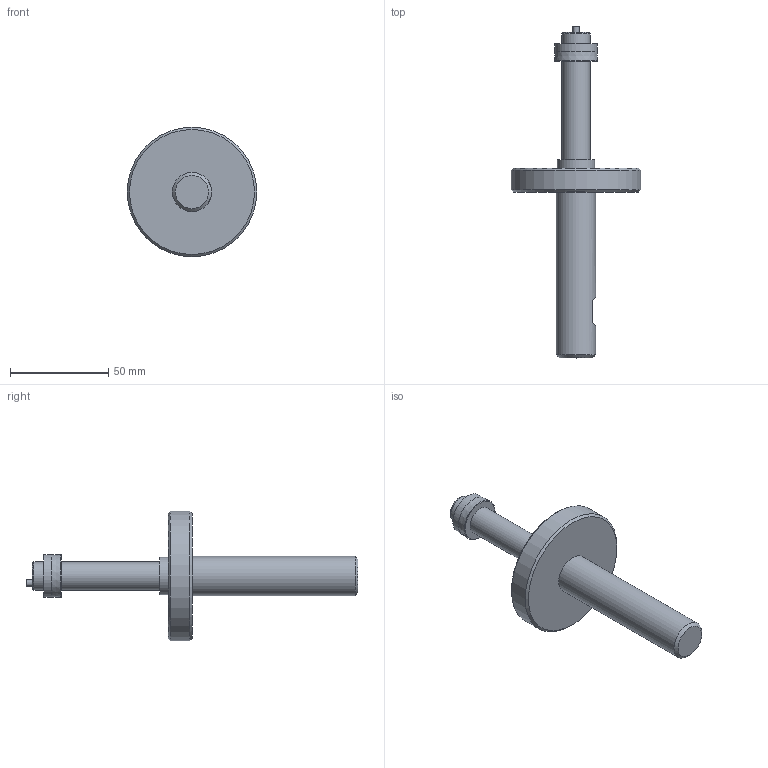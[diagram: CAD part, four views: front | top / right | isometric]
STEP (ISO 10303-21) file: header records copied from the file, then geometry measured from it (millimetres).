
FILE_DESCRIPTION (( 'STEP AP203' ), '1' );
FILE_NAME ('AF56-SIMPLE - AF56-14.50M-22.00M.step', '2025-01-22T13:31:51', ( '' ), ( '' ), 'SwSTEP 2.0', 'SolidWorks 2024', '' );
FILE_SCHEMA (( 'CONFIG_CONTROL_DESIGN' ));
Length unit declared in the file: inch
Products named in the file (1): AF56-SIMPLE - AF56-14.50M-22.00M
Bounding box: 66.04 x 169.29 x 66.04 mm (x, y, z)
Volume: 81451 mm3; surface area: 18178.7 mm2
Topology: 1 solids, 1 shells, 24 faces, 40 edges, 25 vertices
Faces by surface type: plane 11, cylinder 7, cone 5, torus 1
Full cylindrical faces by diameter (mm): 3.175 x1, 14.376 x2, 19.05 x1, 20 x1, 21.494 x1, 66.04 x1
Entity records: 569 total; most frequent: DIRECTION 94, CARTESIAN_POINT 81, ORIENTED_EDGE 52, AXIS2_PLACEMENT_3D 45, EDGE_LOOP 44, FACE_OUTER_BOUND 32, EDGE_CURVE 26, ADVANCED_FACE 24
